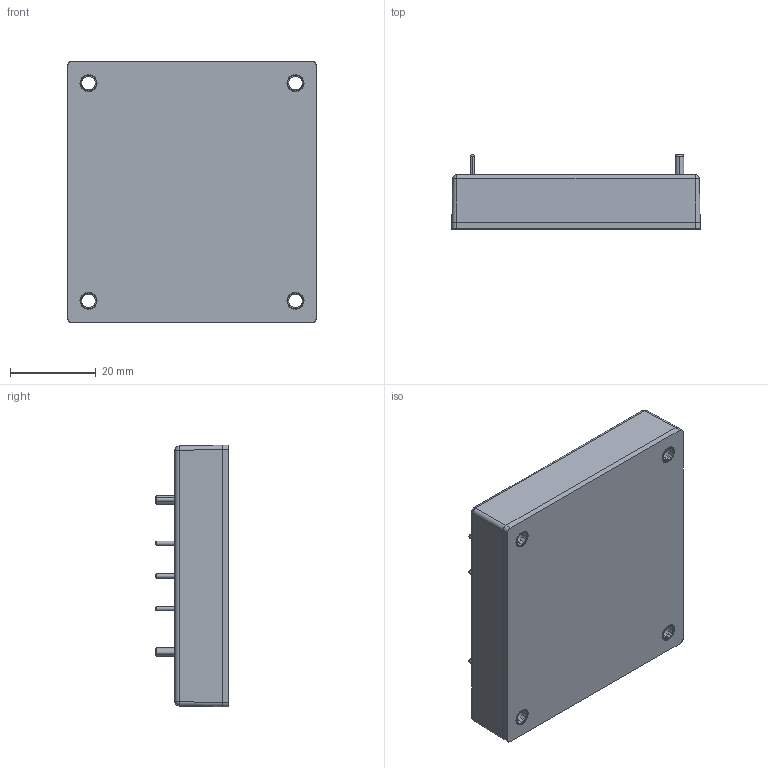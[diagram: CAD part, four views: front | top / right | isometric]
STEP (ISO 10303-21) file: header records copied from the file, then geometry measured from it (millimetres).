
FILE_DESCRIPTION (( 'STEP AP214' ), '1' );
FILE_NAME ('QHL300.STEP', '2019-12-13T14:47:04', ( '' ), ( '' ), 'SwSTEP 2.0', 'SolidWorks 2017', '' );
FILE_SCHEMA (( 'AUTOMOTIVE_DESIGN' ));
Length unit declared in the file: millimetre
Products named in the file (7): QHL300 CASE; QHL300 BASE; QHL300 PINS; QHL300 BASE ASSY; QHL300 LABEL; QHL300; QHL300 THROUGH INSERT
Assembly tree (9 placements, depth 3):
  QHL300
    QHL300 BASE ASSY
      QHL300 BASE
      QHL300 THROUGH INSERT  x4
    QHL300 CASE
    QHL300 PINS
    QHL300 LABEL
Bounding box: 57.9 x 17.2 x 61 mm (x, y, z)
Volume: 42424.5 mm3; surface area: 30199.5 mm2
Topology: 8 solids, 8 shells, 1015 faces, 2713 edges, 1787 vertices
Faces by surface type: plane 546, cylinder 193, cone 140, bspline 136
Entity records: 31307 total; most frequent: CARTESIAN_POINT 12400, ORIENTED_EDGE 4130, DIRECTION 3342, EDGE_CURVE 2065, VECTOR 1406, LINE 1406, VERTEX_POINT 1358, AXIS2_PLACEMENT_3D 968
